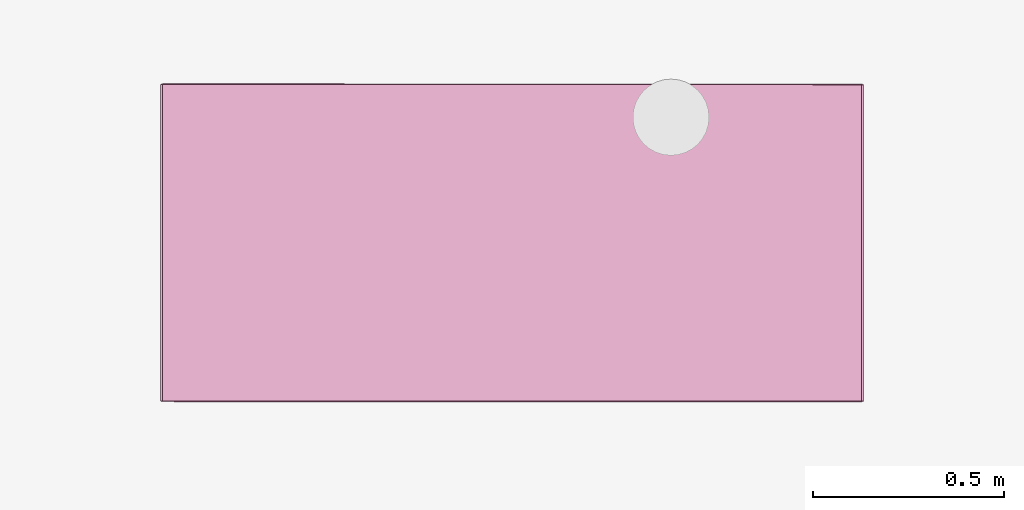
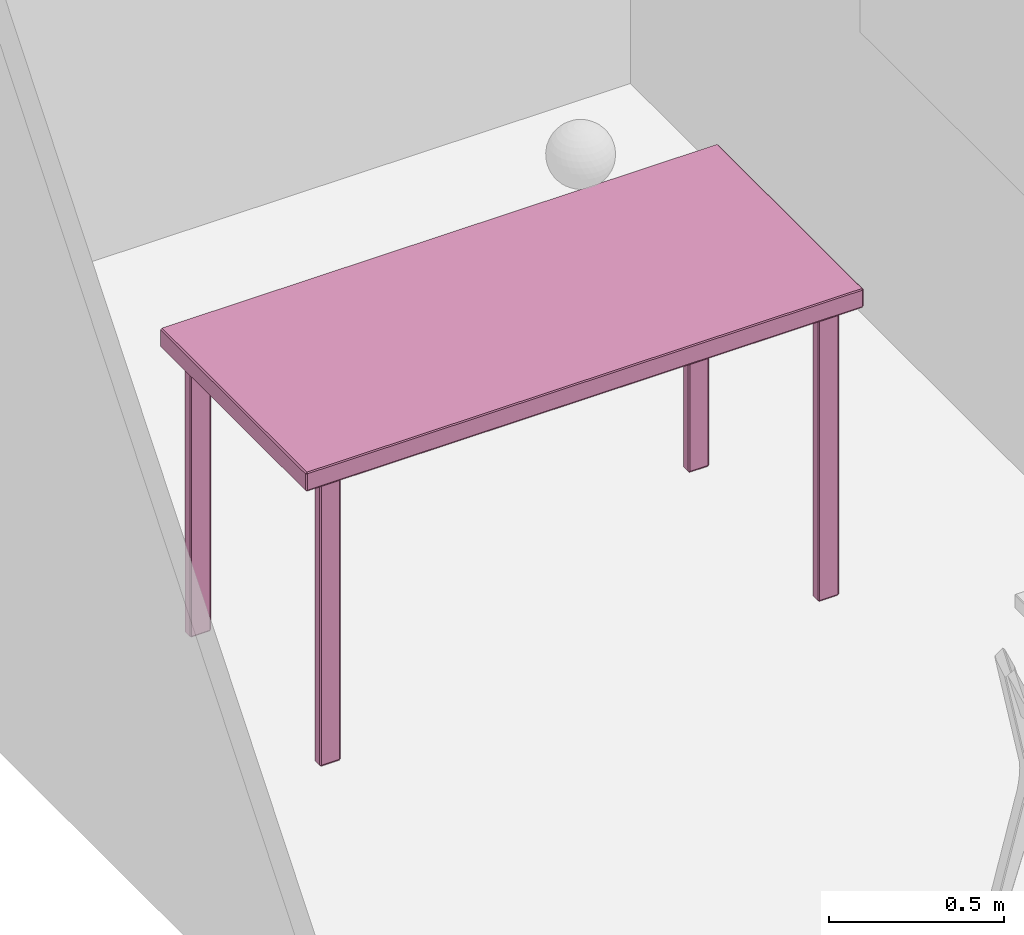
# One storey, part 8 of 12: 1 furnishing.
"""IFC2X3 building model written with IfcOpenShell, lengths in metres."""

from ifc_helpers import new_model, si_unit, direction, frame, origin_with_axes, place, context, project, spatial, faceted_brep, type_object, element, save


model = new_model("IFC2X3")

# Units and contexts
model_context = context("Model", 3, precision=1e-05, world=origin_with_axes(), true_north=direction((0.999, -0.05, 0.0)))
ifc_project = project(units=[si_unit("LENGTHUNIT", "METRE"), si_unit("AREAUNIT", "SQUARE_METRE")], contexts=[model_context])

# Site, building, storey, space
site_placement = place(None, origin_with_axes())
site = spatial("IfcSite", under=ifc_project, at=site_placement, Name="Site", CompositionType="ELEMENT")
building_placement = place(site_placement, origin_with_axes())
building = spatial("IfcBuilding", under=site, at=building_placement, Name="Building", CompositionType="ELEMENT")
storey_placement = place(building_placement, frame((0.0, 0.0, 5.96046447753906e-08), z_axis=(0.0, 0.0, 1.0), x_axis=(1.0, 0.0, 0.0)))
storey = spatial("IfcBuildingStorey", under=building, at=storey_placement, Name="Story 0", CompositionType="ELEMENT", Elevation=5.96046447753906e-08)
space_placement = place(storey_placement, frame((4.44695107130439, 2.32165387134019, 0.0), z_axis=(0.0, 0.0, 1.0), x_axis=(-0.00965765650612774, 0.999953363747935, 0.0)))
space = spatial("IfcSpace", under=storey, at=space_placement, Name="001", CompositionType="ELEMENT", InteriorOrExteriorSpace="INTERNAL")

# Furnishing
furniture_type = type_object("IfcFurnitureType", Name="a07657b2-c1ab-4219-bd84-188b17b31583")
furnishing_placement = place(space_placement, frame((3.36928678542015, -0.618703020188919, 0.532702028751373), z_axis=(0.0, 0.0, 0.999999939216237), x_axis=(-0.999949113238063, 0.0100791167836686, 0.0)))
element("IfcFurnishingElement", 1, at=furnishing_placement, inside=space, type_object=furniture_type, Name="Table", ObjectType="Table", context=model_context, shape_type="Brep", body=[
    faceted_brep([(0.414, 0.9193, 0.4709), (-0.414, 0.9193, 0.4709), (0.414, 0.9193, 0.528), (-0.414, 0.9193, 0.528), (0.414, 0.9193, 0.528), (-0.414, 0.9193, 0.4709), (0.3549, -0.8512, 0.4829), (0.3549, -0.7909, 0.4829), (0.3549, -0.8512, -0.528), (0.3549, -0.7909, -0.528), (0.3549, -0.8512, -0.528), (0.3549, -0.7909, 0.4829), (0.3843, -0.8558, 0.4829), (0.357, -0.8558, 0.4829), (0.3843, -0.8558, -0.528), (0.357, -0.8558, -0.528), (0.3843, -0.8558, -0.528), (0.357, -0.8558, 0.4829), (0.3863, -0.7909, 0.4829), (0.3863, -0.8512, 0.4829), (0.3863, -0.7909, -0.528), (0.3863, -0.8512, -0.528), (0.3863, -0.7909, -0.528), (0.3863, -0.8512, 0.4829), (0.357, -0.7863, 0.4829), (0.3843, -0.7863, 0.4829), (0.357, -0.7863, -0.528), (0.3843, -0.7863, -0.528), (0.357, -0.7863, -0.528), (0.3843, -0.7863, 0.4829), (0.3549, 0.8512, 0.4829), (0.3549, 0.8512, -0.528), (0.3549, 0.7909, 0.4829), (0.3549, 0.7909, -0.528), (0.3549, 0.7909, 0.4829), (0.3549, 0.8512, -0.528), (0.3843, 0.8558, 0.4829), (0.3843, 0.8558, -0.528), (0.357, 0.8558, 0.4829), (0.357, 0.8558, -0.528), (0.357, 0.8558, 0.4829), (0.3843, 0.8558, -0.528), (0.3863, 0.7909, 0.4829), (0.3863, 0.7909, -0.528), (0.3863, 0.8512, 0.4829), (0.3863, 0.8512, -0.528), (0.3863, 0.8512, 0.4829), (0.3863, 0.7909, -0.528), (0.357, 0.7863, 0.4829), (0.357, 0.7863, -0.528), (0.3843, 0.7863, 0.4829), (0.3843, 0.7863, -0.528), (0.3843, 0.7863, 0.4829), (0.357, 0.7863, -0.528), (0.4161, 0.9147, 0.4709), (0.4161, 0.9147, 0.528), (0.4161, -0.9147, 0.4709), (0.4161, -0.9147, 0.528), (0.4161, -0.9147, 0.4709), (0.4161, 0.9147, 0.528), (-0.4161, 0.9147, 0.528), (-0.4161, 0.9147, 0.4709), (-0.4161, -0.9147, 0.528), (-0.4161, -0.9147, 0.4709), (-0.4161, -0.9147, 0.528), (-0.4161, 0.9147, 0.4709), (-0.3549, -0.8512, 0.4829), (-0.3549, -0.8512, -0.528), (-0.3549, -0.7909, 0.4829), (-0.3549, -0.7909, -0.528), (-0.3549, -0.7909, 0.4829), (-0.3549, -0.8512, -0.528), (-0.3843, -0.8558, 0.4829), (-0.3843, -0.8558, -0.528), (-0.357, -0.8558, 0.4829), (-0.357, -0.8558, -0.528), (-0.357, -0.8558, 0.4829), (-0.3843, -0.8558, -0.528), (-0.3863, -0.7909, 0.4829), (-0.3863, -0.7909, -0.528), (-0.3863, -0.8512, 0.4829), (-0.3863, -0.8512, -0.528), (-0.3863, -0.8512, 0.4829), (-0.3863, -0.7909, -0.528), (-0.357, -0.7863, 0.4829), (-0.357, -0.7863, -0.528), (-0.3843, -0.7863, 0.4829), (-0.3843, -0.7863, -0.528), (-0.3843, -0.7863, 0.4829), (-0.357, -0.7863, -0.528), (-0.3549, 0.8512, 0.4829), (-0.3549, 0.7909, 0.4829), (-0.3549, 0.8512, -0.528), (-0.3549, 0.7909, -0.528), (-0.3549, 0.8512, -0.528), (-0.3549, 0.7909, 0.4829), (-0.3843, 0.8558, 0.4829), (-0.357, 0.8558, 0.4829), (-0.3843, 0.8558, -0.528), (-0.357, 0.8558, -0.528), (-0.3843, 0.8558, -0.528), (-0.357, 0.8558, 0.4829), (-0.3863, 0.7909, 0.4829), (-0.3863, 0.8512, 0.4829), (-0.3863, 0.7909, -0.528), (-0.3863, 0.8512, -0.528), (-0.3863, 0.7909, -0.528), (-0.3863, 0.8512, 0.4829), (-0.357, 0.7863, 0.4829), (-0.3843, 0.7863, 0.4829), (-0.357, 0.7863, -0.528), (-0.3843, 0.7863, -0.528), (-0.357, 0.7863, -0.528), (-0.3843, 0.7863, 0.4829), (-0.414, 0.9147, 0.5327), (-0.414, -0.9147, 0.5327), (0.414, 0.9147, 0.5327), (0.414, -0.9147, 0.5327), (0.414, 0.9147, 0.5327), (-0.414, -0.9147, 0.5327), (0.414, -0.9193, 0.4709), (0.414, -0.9193, 0.528), (-0.414, -0.9193, 0.4709), (-0.414, -0.9193, 0.528), (-0.414, -0.9193, 0.4709), (0.414, -0.9193, 0.528), (0.414, -0.9147, 0.4662), (-0.414, -0.9147, 0.4662), (0.414, 0.9147, 0.4662), (-0.414, 0.9147, 0.4662), (0.414, 0.9147, 0.4662), (-0.414, -0.9147, 0.4662), (0.3843, -0.8512, 0.4876), (0.3843, -0.7909, 0.4876), (0.357, -0.8512, 0.4876), (0.357, -0.7909, 0.4876), (0.357, -0.8512, 0.4876), (0.3843, -0.7909, 0.4876), (0.3843, -0.7909, -0.5327), (0.3843, -0.8512, -0.5327), (0.357, -0.7909, -0.5327), (0.357, -0.8512, -0.5327), (0.357, -0.7909, -0.5327), (0.3843, -0.8512, -0.5327), (0.3843, 0.8512, -0.5327), (0.3843, 0.7909, -0.5327), (0.357, 0.8512, -0.5327), (0.357, 0.7909, -0.5327), (0.357, 0.8512, -0.5327), (0.3843, 0.7909, -0.5327), (0.3843, 0.7909, 0.4876), (0.3843, 0.8512, 0.4876), (0.357, 0.7909, 0.4876), (0.357, 0.8512, 0.4876), (0.357, 0.7909, 0.4876), (0.3843, 0.8512, 0.4876), (-0.3843, -0.8512, -0.5327), (-0.3843, -0.7909, -0.5327), (-0.357, -0.8512, -0.5327), (-0.357, -0.7909, -0.5327), (-0.357, -0.8512, -0.5327), (-0.3843, -0.7909, -0.5327), (-0.3843, -0.7909, 0.4876), (-0.3843, -0.8512, 0.4876), (-0.357, -0.7909, 0.4876), (-0.357, -0.8512, 0.4876), (-0.357, -0.7909, 0.4876), (-0.3843, -0.8512, 0.4876), (-0.3843, 0.8512, 0.4876), (-0.3843, 0.7909, 0.4876), (-0.357, 0.8512, 0.4876), (-0.357, 0.7909, 0.4876), (-0.357, 0.8512, 0.4876), (-0.3843, 0.7909, 0.4876), (-0.3843, 0.7909, -0.5327), (-0.3843, 0.8512, -0.5327), (-0.357, 0.7909, -0.5327), (-0.357, 0.8512, -0.5327), (-0.357, 0.7909, -0.5327), (-0.3843, 0.8512, -0.5327), (-0.414, 0.9147, 0.5327), (-0.414, 0.9193, 0.528), (-0.4161, 0.9147, 0.528), (0.357, -0.7909, -0.5327), (0.3549, -0.7909, -0.528), (0.357, -0.7863, -0.528), (0.357, -0.8512, -0.5327), (0.357, -0.8558, -0.528), (0.3549, -0.8512, -0.528), (0.3843, -0.8512, -0.5327), (0.3863, -0.8512, -0.528), (0.3843, -0.8558, -0.528), (0.3843, -0.7909, -0.5327), (0.3843, -0.7863, -0.528), (0.3863, -0.7909, -0.528), (0.357, -0.7909, 0.4876), (0.357, -0.7863, 0.4829), (0.3549, -0.7909, 0.4829), (0.357, 0.7863, -0.528), (0.3549, 0.7909, -0.528), (0.357, 0.7909, -0.5327), (0.357, 0.8512, 0.4876), (0.357, 0.8558, 0.4829), (0.3549, 0.8512, 0.4829), (0.3843, 0.8512, 0.4876), (0.3863, 0.8512, 0.4829), (0.3843, 0.8558, 0.4829), (0.3843, 0.7909, 0.4876), (0.3843, 0.7863, 0.4829), (0.3863, 0.7909, 0.4829), (0.414, -0.9193, 0.528), (0.4161, -0.9147, 0.528), (0.414, -0.9147, 0.5327), (0.414, 0.9147, 0.5327), (0.4161, 0.9147, 0.528), (0.414, 0.9193, 0.528), (-0.414, -0.9193, 0.4709), (-0.4161, -0.9147, 0.4709), (-0.414, -0.9147, 0.4662), (-0.414, 0.9147, 0.4662), (-0.4161, 0.9147, 0.4709), (-0.414, 0.9193, 0.4709), (-0.357, -0.7863, -0.528), (-0.3549, -0.7909, -0.528), (-0.357, -0.7909, -0.5327), (-0.357, -0.8512, 0.4876), (-0.357, -0.8558, 0.4829), (-0.3549, -0.8512, 0.4829), (-0.3843, -0.8512, 0.4876), (-0.3863, -0.8512, 0.4829), (-0.3843, -0.8558, 0.4829), (-0.3843, -0.7909, 0.4876), (-0.3843, -0.7863, 0.4829), (-0.3863, -0.7909, 0.4829), (-0.357, 0.7909, -0.5327), (-0.3549, 0.7909, -0.528), (-0.357, 0.7863, -0.528), (-0.357, 0.8512, -0.5327), (-0.357, 0.8558, -0.528), (-0.3549, 0.8512, -0.528), (-0.3843, 0.8512, -0.5327), (-0.3863, 0.8512, -0.528), (-0.3843, 0.8558, -0.528), (-0.3843, 0.7909, -0.5327), (-0.3843, 0.7863, -0.528), (-0.3863, 0.7909, -0.528), (-0.357, 0.7909, 0.4876), (-0.357, 0.7863, 0.4829), (-0.3549, 0.7909, 0.4829), (-0.414, -0.9193, 0.528), (-0.414, -0.9147, 0.5327), (-0.4161, -0.9147, 0.528), (0.414, -0.9193, 0.4709), (0.414, -0.9147, 0.4662), (0.4161, -0.9147, 0.4709), (0.4161, 0.9147, 0.4709), (0.414, 0.9147, 0.4662), (0.414, 0.9193, 0.4709), (0.3843, -0.7863, 0.4829), (0.3843, -0.7909, 0.4876), (0.3863, -0.7909, 0.4829), (0.3863, -0.8512, 0.4829), (0.3843, -0.8512, 0.4876), (0.3843, -0.8558, 0.4829), (0.357, -0.8558, 0.4829), (0.357, -0.8512, 0.4876), (0.3549, -0.8512, 0.4829), (0.3843, 0.7863, -0.528), (0.3843, 0.7909, -0.5327), (0.3863, 0.7909, -0.528), (0.3863, 0.8512, -0.528), (0.3843, 0.8512, -0.5327), (0.3843, 0.8558, -0.528), (0.357, 0.8558, -0.528), (0.357, 0.8512, -0.5327), (0.3549, 0.8512, -0.528), (0.357, 0.7863, 0.4829), (0.357, 0.7909, 0.4876), (0.3549, 0.7909, 0.4829), (-0.3843, -0.7863, -0.528), (-0.3843, -0.7909, -0.5327), (-0.3863, -0.7909, -0.528), (-0.3863, -0.8512, -0.528), (-0.3843, -0.8512, -0.5327), (-0.3843, -0.8558, -0.528), (-0.357, -0.8558, -0.528), (-0.357, -0.8512, -0.5327), (-0.3549, -0.8512, -0.528), (-0.357, -0.7863, 0.4829), (-0.357, -0.7909, 0.4876), (-0.3549, -0.7909, 0.4829), (-0.3843, 0.7863, 0.4829), (-0.3843, 0.7909, 0.4876), (-0.3863, 0.7909, 0.4829), (-0.3863, 0.8512, 0.4829), (-0.3843, 0.8512, 0.4876), (-0.3843, 0.8558, 0.4829), (-0.357, 0.8558, 0.4829), (-0.357, 0.8512, 0.4876), (-0.3549, 0.8512, 0.4829), (-0.414, 0.9193, 0.528), (-0.414, 0.9193, 0.4709), (-0.4161, 0.9147, 0.528), (-0.4161, 0.9147, 0.4709), (-0.4161, 0.9147, 0.528), (-0.414, 0.9193, 0.4709), (-0.414, 0.9193, 0.4709), (0.414, 0.9193, 0.4709), (-0.414, 0.9147, 0.4662), (0.414, 0.9147, 0.4662), (-0.414, 0.9147, 0.4662), (0.414, 0.9193, 0.4709), (0.414, 0.9193, 0.4709), (0.414, 0.9193, 0.528), (0.4161, 0.9147, 0.4709), (0.4161, 0.9147, 0.528), (0.4161, 0.9147, 0.4709), (0.414, 0.9193, 0.528), (0.414, 0.9193, 0.528), (-0.414, 0.9193, 0.528), (0.414, 0.9147, 0.5327), (-0.414, 0.9147, 0.5327), (0.414, 0.9147, 0.5327), (-0.414, 0.9193, 0.528), (0.3549, -0.7909, -0.528), (0.3549, -0.7909, 0.4829), (0.357, -0.7863, -0.528), (0.357, -0.7863, 0.4829), (0.357, -0.7863, -0.528), (0.3549, -0.7909, 0.4829), (0.3549, -0.7909, 0.4829), (0.3549, -0.8512, 0.4829), (0.357, -0.7909, 0.4876), (0.357, -0.8512, 0.4876), (0.357, -0.7909, 0.4876), (0.3549, -0.8512, 0.4829), (0.3549, -0.8512, 0.4829), (0.3549, -0.8512, -0.528), (0.357, -0.8558, 0.4829), (0.357, -0.8558, -0.528), (0.357, -0.8558, 0.4829), (0.3549, -0.8512, -0.528), (0.3549, -0.8512, -0.528), (0.3549, -0.7909, -0.528), (0.357, -0.8512, -0.5327), (0.357, -0.7909, -0.5327), (0.357, -0.8512, -0.5327), (0.3549, -0.7909, -0.528), (0.357, -0.8558, 0.4829), (0.3843, -0.8558, 0.4829), (0.357, -0.8512, 0.4876), (0.3843, -0.8512, 0.4876), (0.357, -0.8512, 0.4876), (0.3843, -0.8558, 0.4829), (0.3843, -0.8558, 0.4829), (0.3843, -0.8558, -0.528), (0.3863, -0.8512, 0.4829), (0.3863, -0.8512, -0.528), (0.3863, -0.8512, 0.4829), (0.3843, -0.8558, -0.528), (0.3843, -0.8558, -0.528), (0.357, -0.8558, -0.528), (0.3843, -0.8512, -0.5327), (0.357, -0.8512, -0.5327), (0.3843, -0.8512, -0.5327), (0.357, -0.8558, -0.528), (0.3863, -0.8512, 0.4829), (0.3863, -0.7909, 0.4829), (0.3843, -0.8512, 0.4876), (0.3843, -0.7909, 0.4876), (0.3843, -0.8512, 0.4876), (0.3863, -0.7909, 0.4829), (0.3863, -0.7909, 0.4829), (0.3863, -0.7909, -0.528), (0.3843, -0.7863, 0.4829), (0.3843, -0.7863, -0.528), (0.3843, -0.7863, 0.4829), (0.3863, -0.7909, -0.528), (0.3863, -0.7909, -0.528), (0.3863, -0.8512, -0.528), (0.3843, -0.7909, -0.5327), (0.3843, -0.8512, -0.5327), (0.3843, -0.7909, -0.5327), (0.3863, -0.8512, -0.528), (0.3843, -0.7863, 0.4829), (0.357, -0.7863, 0.4829), (0.3843, -0.7909, 0.4876), (0.357, -0.7909, 0.4876), (0.3843, -0.7909, 0.4876), (0.357, -0.7863, 0.4829), (0.357, -0.7863, -0.528), (0.3843, -0.7863, -0.528), (0.357, -0.7909, -0.5327), (0.3843, -0.7909, -0.5327), (0.357, -0.7909, -0.5327), (0.3843, -0.7863, -0.528), (0.3549, 0.7909, -0.528), (0.3549, 0.8512, -0.528), (0.357, 0.7909, -0.5327), (0.357, 0.8512, -0.5327), (0.357, 0.7909, -0.5327), (0.3549, 0.8512, -0.528), (0.3549, 0.8512, -0.528), (0.3549, 0.8512, 0.4829), (0.357, 0.8558, -0.528), (0.357, 0.8558, 0.4829), (0.357, 0.8558, -0.528), (0.3549, 0.8512, 0.4829), (0.3549, 0.8512, 0.4829), (0.3549, 0.7909, 0.4829), (0.357, 0.8512, 0.4876), (0.357, 0.7909, 0.4876), (0.357, 0.8512, 0.4876), (0.3549, 0.7909, 0.4829), (0.3549, 0.7909, 0.4829), (0.3549, 0.7909, -0.528), (0.357, 0.7863, 0.4829), (0.357, 0.7863, -0.528), (0.357, 0.7863, 0.4829), (0.3549, 0.7909, -0.528), (0.357, 0.8558, -0.528), (0.3843, 0.8558, -0.528), (0.357, 0.8512, -0.5327), (0.3843, 0.8512, -0.5327), (0.357, 0.8512, -0.5327), (0.3843, 0.8558, -0.528), (0.3843, 0.8558, -0.528), (0.3843, 0.8558, 0.4829), (0.3863, 0.8512, -0.528), (0.3863, 0.8512, 0.4829), (0.3863, 0.8512, -0.528), (0.3843, 0.8558, 0.4829), (0.3843, 0.8558, 0.4829), (0.357, 0.8558, 0.4829), (0.3843, 0.8512, 0.4876), (0.357, 0.8512, 0.4876), (0.3843, 0.8512, 0.4876), (0.357, 0.8558, 0.4829), (0.3863, 0.8512, -0.528), (0.3863, 0.7909, -0.528), (0.3843, 0.8512, -0.5327), (0.3843, 0.7909, -0.5327), (0.3843, 0.8512, -0.5327), (0.3863, 0.7909, -0.528), (0.3863, 0.7909, -0.528), (0.3863, 0.7909, 0.4829), (0.3843, 0.7863, -0.528), (0.3843, 0.7863, 0.4829), (0.3843, 0.7863, -0.528), (0.3863, 0.7909, 0.4829), (0.3863, 0.7909, 0.4829), (0.3863, 0.8512, 0.4829), (0.3843, 0.7909, 0.4876), (0.3843, 0.8512, 0.4876), (0.3843, 0.7909, 0.4876), (0.3863, 0.8512, 0.4829), (0.3843, 0.7863, -0.528), (0.357, 0.7863, -0.528), (0.3843, 0.7909, -0.5327), (0.357, 0.7909, -0.5327), (0.3843, 0.7909, -0.5327), (0.357, 0.7863, -0.528), (0.357, 0.7863, 0.4829), (0.3843, 0.7863, 0.4829), (0.357, 0.7909, 0.4876), (0.3843, 0.7909, 0.4876), (0.357, 0.7909, 0.4876), (0.3843, 0.7863, 0.4829), (0.4161, -0.9147, 0.528), (0.4161, 0.9147, 0.528), (0.414, -0.9147, 0.5327), (0.414, 0.9147, 0.5327), (0.414, -0.9147, 0.5327), (0.4161, 0.9147, 0.528), (0.4161, 0.9147, 0.4709), (0.4161, -0.9147, 0.4709), (0.414, 0.9147, 0.4662), (0.414, -0.9147, 0.4662), (0.414, 0.9147, 0.4662), (0.4161, -0.9147, 0.4709), (0.4161, -0.9147, 0.4709), (0.4161, -0.9147, 0.528), (0.414, -0.9193, 0.4709), (0.414, -0.9193, 0.528), (0.414, -0.9193, 0.4709), (0.4161, -0.9147, 0.528), (-0.4161, -0.9147, 0.4709), (-0.4161, 0.9147, 0.4709), (-0.414, -0.9147, 0.4662), (-0.414, 0.9147, 0.4662), (-0.414, -0.9147, 0.4662), (-0.4161, 0.9147, 0.4709), (-0.4161, 0.9147, 0.528), (-0.4161, -0.9147, 0.528), (-0.414, 0.9147, 0.5327), (-0.414, -0.9147, 0.5327), (-0.414, 0.9147, 0.5327), (-0.4161, -0.9147, 0.528), (-0.4161, -0.9147, 0.528), (-0.4161, -0.9147, 0.4709), (-0.414, -0.9193, 0.528), (-0.414, -0.9193, 0.4709), (-0.414, -0.9193, 0.528), (-0.4161, -0.9147, 0.4709), (-0.3549, -0.7909, -0.528), (-0.3549, -0.8512, -0.528), (-0.357, -0.7909, -0.5327), (-0.357, -0.8512, -0.5327), (-0.357, -0.7909, -0.5327), (-0.3549, -0.8512, -0.528), (-0.3549, -0.8512, -0.528), (-0.3549, -0.8512, 0.4829), (-0.357, -0.8558, -0.528), (-0.357, -0.8558, 0.4829), (-0.357, -0.8558, -0.528), (-0.3549, -0.8512, 0.4829), (-0.3549, -0.8512, 0.4829), (-0.3549, -0.7909, 0.4829), (-0.357, -0.8512, 0.4876), (-0.357, -0.7909, 0.4876), (-0.357, -0.8512, 0.4876), (-0.3549, -0.7909, 0.4829), (-0.3549, -0.7909, 0.4829), (-0.3549, -0.7909, -0.528), (-0.357, -0.7863, 0.4829), (-0.357, -0.7863, -0.528), (-0.357, -0.7863, 0.4829), (-0.3549, -0.7909, -0.528), (-0.357, -0.8558, -0.528), (-0.3843, -0.8558, -0.528), (-0.357, -0.8512, -0.5327), (-0.3843, -0.8512, -0.5327), (-0.357, -0.8512, -0.5327), (-0.3843, -0.8558, -0.528), (-0.3843, -0.8558, -0.528), (-0.3843, -0.8558, 0.4829), (-0.3863, -0.8512, -0.528), (-0.3863, -0.8512, 0.4829), (-0.3863, -0.8512, -0.528), (-0.3843, -0.8558, 0.4829), (-0.3843, -0.8558, 0.4829), (-0.357, -0.8558, 0.4829), (-0.3843, -0.8512, 0.4876), (-0.357, -0.8512, 0.4876), (-0.3843, -0.8512, 0.4876), (-0.357, -0.8558, 0.4829), (-0.3863, -0.8512, -0.528), (-0.3863, -0.7909, -0.528), (-0.3843, -0.8512, -0.5327), (-0.3843, -0.7909, -0.5327), (-0.3843, -0.8512, -0.5327), (-0.3863, -0.7909, -0.528), (-0.3863, -0.7909, -0.528), (-0.3863, -0.7909, 0.4829), (-0.3843, -0.7863, -0.528), (-0.3843, -0.7863, 0.4829), (-0.3843, -0.7863, -0.528), (-0.3863, -0.7909, 0.4829), (-0.3863, -0.7909, 0.4829), (-0.3863, -0.8512, 0.4829), (-0.3843, -0.7909, 0.4876), (-0.3843, -0.8512, 0.4876), (-0.3843, -0.7909, 0.4876), (-0.3863, -0.8512, 0.4829), (-0.3843, -0.7863, -0.528), (-0.357, -0.7863, -0.528), (-0.3843, -0.7909, -0.5327), (-0.357, -0.7909, -0.5327), (-0.3843, -0.7909, -0.5327), (-0.357, -0.7863, -0.528), (-0.357, -0.7863, 0.4829), (-0.3843, -0.7863, 0.4829), (-0.357, -0.7909, 0.4876), (-0.3843, -0.7909, 0.4876), (-0.357, -0.7909, 0.4876), (-0.3843, -0.7863, 0.4829), (-0.3549, 0.7909, -0.528), (-0.3549, 0.7909, 0.4829), (-0.357, 0.7863, -0.528), (-0.357, 0.7863, 0.4829), (-0.357, 0.7863, -0.528), (-0.3549, 0.7909, 0.4829), (-0.3549, 0.7909, 0.4829), (-0.3549, 0.8512, 0.4829), (-0.357, 0.7909, 0.4876), (-0.357, 0.8512, 0.4876), (-0.357, 0.7909, 0.4876), (-0.3549, 0.8512, 0.4829), (-0.3549, 0.8512, 0.4829), (-0.3549, 0.8512, -0.528), (-0.357, 0.8558, 0.4829), (-0.357, 0.8558, -0.528), (-0.357, 0.8558, 0.4829), (-0.3549, 0.8512, -0.528), (-0.3549, 0.8512, -0.528), (-0.3549, 0.7909, -0.528), (-0.357, 0.8512, -0.5327), (-0.357, 0.7909, -0.5327), (-0.357, 0.8512, -0.5327), (-0.3549, 0.7909, -0.528), (-0.357, 0.8558, 0.4829), (-0.3843, 0.8558, 0.4829), (-0.357, 0.8512, 0.4876), (-0.3843, 0.8512, 0.4876), (-0.357, 0.8512, 0.4876), (-0.3843, 0.8558, 0.4829), (-0.3843, 0.8558, 0.4829), (-0.3843, 0.8558, -0.528), (-0.3863, 0.8512, 0.4829), (-0.3863, 0.8512, -0.528), (-0.3863, 0.8512, 0.4829), (-0.3843, 0.8558, -0.528), (-0.3843, 0.8558, -0.528), (-0.357, 0.8558, -0.528), (-0.3843, 0.8512, -0.5327), (-0.357, 0.8512, -0.5327), (-0.3843, 0.8512, -0.5327), (-0.357, 0.8558, -0.528), (-0.3863, 0.8512, 0.4829), (-0.3863, 0.7909, 0.4829), (-0.3843, 0.8512, 0.4876), (-0.3843, 0.7909, 0.4876), (-0.3843, 0.8512, 0.4876), (-0.3863, 0.7909, 0.4829), (-0.3863, 0.7909, 0.4829), (-0.3863, 0.7909, -0.528), (-0.3843, 0.7863, 0.4829), (-0.3843, 0.7863, -0.528), (-0.3843, 0.7863, 0.4829), (-0.3863, 0.7909, -0.528), (-0.3863, 0.7909, -0.528), (-0.3863, 0.8512, -0.528), (-0.3843, 0.7909, -0.5327), (-0.3843, 0.8512, -0.5327), (-0.3843, 0.7909, -0.5327), (-0.3863, 0.8512, -0.528), (-0.3843, 0.7863, 0.4829), (-0.357, 0.7863, 0.4829), (-0.3843, 0.7909, 0.4876), (-0.357, 0.7909, 0.4876), (-0.3843, 0.7909, 0.4876), (-0.357, 0.7863, 0.4829), (-0.357, 0.7863, -0.528), (-0.3843, 0.7863, -0.528), (-0.357, 0.7909, -0.5327), (-0.3843, 0.7909, -0.5327), (-0.357, 0.7909, -0.5327), (-0.3843, 0.7863, -0.528), (0.414, -0.9147, 0.5327), (-0.414, -0.9147, 0.5327), (0.414, -0.9193, 0.528), (-0.414, -0.9193, 0.528), (0.414, -0.9193, 0.528), (-0.414, -0.9147, 0.5327), (0.414, -0.9193, 0.4709), (-0.414, -0.9193, 0.4709), (0.414, -0.9147, 0.4662), (-0.414, -0.9147, 0.4662), (0.414, -0.9147, 0.4662), (-0.414, -0.9193, 0.4709)], [[[0, 1, 2]], [[3, 4, 5]], [[6, 7, 8]], [[9, 10, 11]], [[12, 13, 14]], [[15, 16, 17]], [[18, 19, 20]], [[21, 22, 23]], [[24, 25, 26]], [[27, 28, 29]], [[30, 31, 32]], [[33, 34, 35]], [[36, 37, 38]], [[39, 40, 41]], [[42, 43, 44]], [[45, 46, 47]], [[48, 49, 50]], [[51, 52, 53]], [[54, 55, 56]], [[57, 58, 59]], [[60, 61, 62]], [[63, 64, 65]], [[66, 67, 68]], [[69, 70, 71]], [[72, 73, 74]], [[75, 76, 77]], [[78, 79, 80]], [[81, 82, 83]], [[84, 85, 86]], [[87, 88, 89]], [[90, 91, 92]], [[93, 94, 95]], [[96, 97, 98]], [[99, 100, 101]], [[102, 103, 104]], [[105, 106, 107]], [[108, 109, 110]], [[111, 112, 113]], [[114, 115, 116]], [[117, 118, 119]], [[120, 121, 122]], [[123, 124, 125]], [[126, 127, 128]], [[129, 130, 131]], [[132, 133, 134]], [[135, 136, 137]], [[138, 139, 140]], [[141, 142, 143]], [[144, 145, 146]], [[147, 148, 149]], [[150, 151, 152]], [[153, 154, 155]], [[156, 157, 158]], [[159, 160, 161]], [[162, 163, 164]], [[165, 166, 167]], [[168, 169, 170]], [[171, 172, 173]], [[174, 175, 176]], [[177, 178, 179]], [[180, 181, 182]], [[183, 184, 185]], [[186, 187, 188]], [[189, 190, 191]], [[192, 193, 194]], [[195, 196, 197]], [[198, 199, 200]], [[201, 202, 203]], [[204, 205, 206]], [[207, 208, 209]], [[210, 211, 212]], [[213, 214, 215]], [[216, 217, 218]], [[219, 220, 221]], [[222, 223, 224]], [[225, 226, 227]], [[228, 229, 230]], [[231, 232, 233]], [[234, 235, 236]], [[237, 238, 239]], [[240, 241, 242]], [[243, 244, 245]], [[246, 247, 248]], [[249, 250, 251]], [[252, 253, 254]], [[255, 256, 257]], [[258, 259, 260]], [[261, 262, 263]], [[264, 265, 266]], [[267, 268, 269]], [[270, 271, 272]], [[273, 274, 275]], [[276, 277, 278]], [[279, 280, 281]], [[282, 283, 284]], [[285, 286, 287]], [[288, 289, 290]], [[291, 292, 293]], [[294, 295, 296]], [[297, 298, 299]], [[300, 301, 302]], [[303, 304, 305]], [[306, 307, 308]], [[309, 310, 311]], [[312, 313, 314]], [[315, 316, 317]], [[318, 319, 320]], [[321, 322, 323]], [[324, 325, 326]], [[327, 328, 329]], [[330, 331, 332]], [[333, 334, 335]], [[336, 337, 338]], [[339, 340, 341]], [[342, 343, 344]], [[345, 346, 347]], [[348, 349, 350]], [[351, 352, 353]], [[354, 355, 356]], [[357, 358, 359]], [[360, 361, 362]], [[363, 364, 365]], [[366, 367, 368]], [[369, 370, 371]], [[372, 373, 374]], [[375, 376, 377]], [[378, 379, 380]], [[381, 382, 383]], [[384, 385, 386]], [[387, 388, 389]], [[390, 391, 392]], [[393, 394, 395]], [[396, 397, 398]], [[399, 400, 401]], [[402, 403, 404]], [[405, 406, 407]], [[408, 409, 410]], [[411, 412, 413]], [[414, 415, 416]], [[417, 418, 419]], [[420, 421, 422]], [[423, 424, 425]], [[426, 427, 428]], [[429, 430, 431]], [[432, 433, 434]], [[435, 436, 437]], [[438, 439, 440]], [[441, 442, 443]], [[444, 445, 446]], [[447, 448, 449]], [[450, 451, 452]], [[453, 454, 455]], [[456, 457, 458]], [[459, 460, 461]], [[462, 463, 464]], [[465, 466, 467]], [[468, 469, 470]], [[471, 472, 473]], [[474, 475, 476]], [[477, 478, 479]], [[480, 481, 482]], [[483, 484, 485]], [[486, 487, 488]], [[489, 490, 491]], [[492, 493, 494]], [[495, 496, 497]], [[498, 499, 500]], [[501, 502, 503]], [[504, 505, 506]], [[507, 508, 509]], [[510, 511, 512]], [[513, 514, 515]], [[516, 517, 518]], [[519, 520, 521]], [[522, 523, 524]], [[525, 526, 527]], [[528, 529, 530]], [[531, 532, 533]], [[534, 535, 536]], [[537, 538, 539]], [[540, 541, 542]], [[543, 544, 545]], [[546, 547, 548]], [[549, 550, 551]], [[552, 553, 554]], [[555, 556, 557]], [[558, 559, 560]], [[561, 562, 563]], [[564, 565, 566]], [[567, 568, 569]], [[570, 571, 572]], [[573, 574, 575]], [[576, 577, 578]], [[579, 580, 581]], [[582, 583, 584]], [[585, 586, 587]], [[588, 589, 590]], [[591, 592, 593]], [[594, 595, 596]], [[597, 598, 599]], [[600, 601, 602]], [[603, 604, 605]], [[606, 607, 608]], [[609, 610, 611]], [[612, 613, 614]], [[615, 616, 617]], [[618, 619, 620]], [[621, 622, 623]], [[624, 625, 626]], [[627, 628, 629]], [[630, 631, 632]], [[633, 634, 635]], [[636, 637, 638]], [[639, 640, 641]], [[642, 643, 644]], [[645, 646, 647]], [[648, 649, 650]], [[651, 652, 653]], [[654, 655, 656]], [[657, 658, 659]]]),
])

save(model, "model.ifc")
